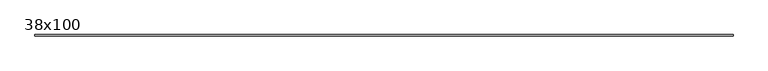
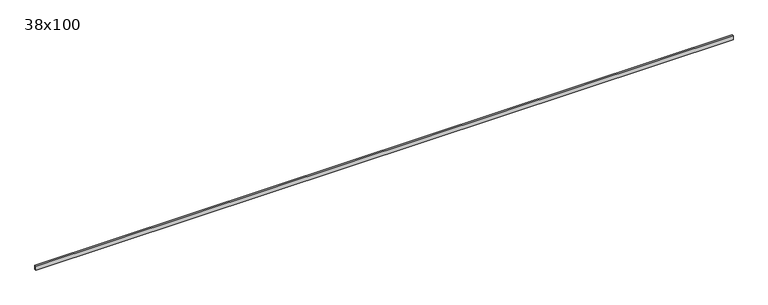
"""IFC4 building model written with IfcOpenShell, lengths in millimetres: beam geometry, Poutre - Bois de construction de dimensions courantes : 38x100."""

from ifc_helpers import new_model, si_unit, frame, origin, place, context, project, spatial, polyline, outline, extrude, source, transform, mapped, element, save


def beam_38x100_b5f6a9f8(model_context):
    return source(origin(), model_context, "Body", "SweptSolid", [
        extrude(outline(polyline([(8503.0, 19.05), (8503.0, -19.05), (-8503.0, -19.05), (-8503.0, 19.05), (8503.0, 19.05)])), frame((0.0, 0.0, -50.0), z_axis=(0.0, 0.0, 1.0), x_axis=(1.0, 0.0, 0.0)), (0.0, 0.0, 1.0), 100.0),
    ])


if __name__ == "__main__":
    model = new_model("IFC4")
    model_context = context("Model", 3, world=origin())
    ifc_project = project(units=[si_unit("LENGTHUNIT", "METRE", prefix="MILLI")], contexts=[model_context])
    site = spatial("IfcSite", under=ifc_project)
    building = spatial("IfcBuilding", under=site)
    placement = place(None, origin())
    beam_38x100_shape = beam_38x100_b5f6a9f8(model_context)
    element("IfcBeam", 1, ObjectType="Poutre - Bois de construction de dimensions courantes : 38x100", at=placement, inside=building, context=model_context, shape_type="MappedRepresentation", body=[
        mapped(beam_38x100_shape, transform((0.0, 0.0, 0.0), x_axis=(1.0, 0.0, 0.0), y_axis=(0.0, 1.0, 0.0), z_axis=(0.0, 0.0, 1.0))),
    ])
    save(model, "model.ifc")
